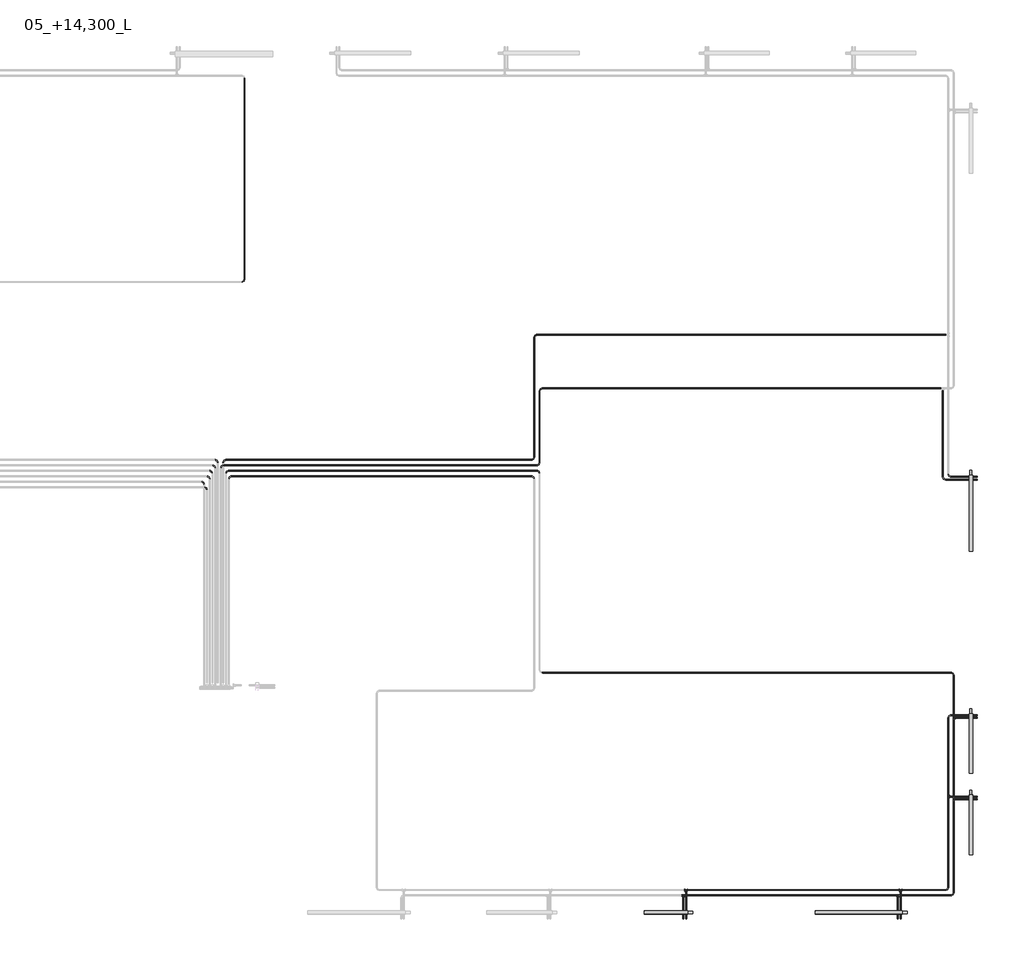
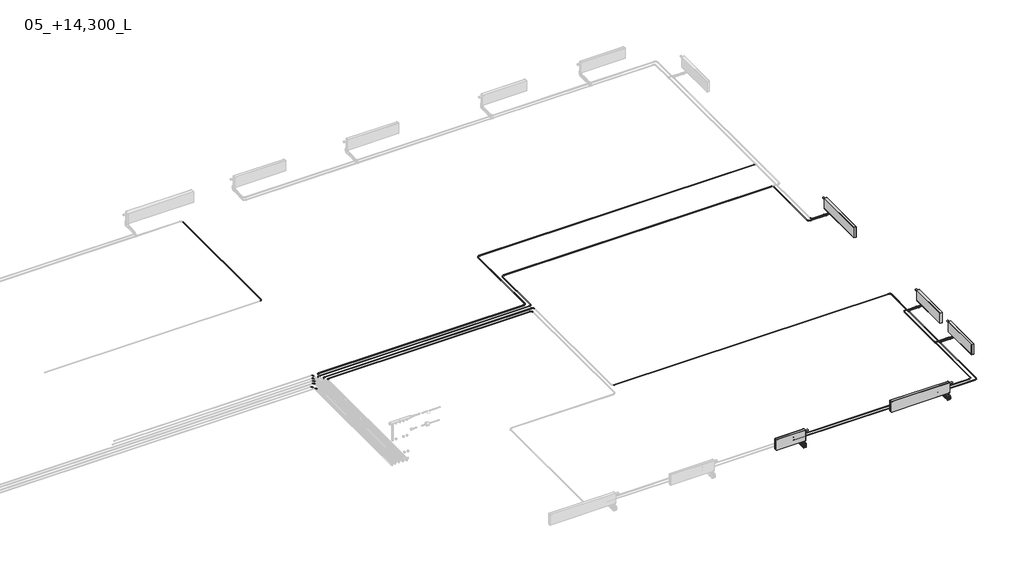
# One storey, part 5 of 15: 40 pipe fittings, 30 pipe segments, 5 proxies, 5 valves.
"""IFC4 building model written with IfcOpenShell, lengths in millimetres."""

from ifc_helpers import new_model, si_unit, point, frame, frame_2d, origin, place, context, project, spatial, circle_curve, trimmed, segment, composite_curve, outline, extrude, transform, mapped, element, save
from components import mechanical_equipment_c0c35615, mechanical_equipment_c68842d5, mechanical_equipment_6fadb864, mechanical_equipment_b2526e06, pipe_fitting_ed936812, pipe_fitting_44bd76dc, pipe_fitting_8f811e63, pipe_fitting_d927fdfb, valve_5b696a81, valve_31f837bc, valve_8453c3c0, valve_c0d130b6

model = new_model("IFC4")

# Units and contexts
model_context = context("Model", 3, world=origin())
ifc_project = project(units=[si_unit("LENGTHUNIT", "METRE", prefix="MILLI")], contexts=[model_context])

# Site, building, storey
site = spatial("IfcSite", under=ifc_project)
building = spatial("IfcBuilding", under=site)
storey = spatial("IfcBuildingStorey", under=building, Name="05_+14,300_L", Elevation=14300.0)

# Proxies
placement = place(None, origin())
mechanical_equipment_shape = mechanical_equipment_c0c35615(model_context)
element("IfcBuildingElementProxy", 1, Name="EVRA CV Д : 21-300-1600", ObjectType="EVRA CV Д : 21-300-1600", at=placement, inside=storey, context=model_context, shape_type="MappedRepresentation", body=[
    mapped(mechanical_equipment_shape, transform((30050.0, 112561.4631102, 14300.0), x_axis=(-1.0, 0.0, 0.0), y_axis=(0.0, -1.0, 0.0), z_axis=(0.0, 0.0, 1.0))),
])
mechanical_equipment_2_shape = mechanical_equipment_c68842d5(model_context)
element("IfcBuildingElementProxy", 2, Name="EVRA CV Д : 21-300-1400", ObjectType="EVRA CV Д : 21-300-1400", at=placement, inside=storey, context=model_context, shape_type="MappedRepresentation", body=[
    mapped(mechanical_equipment_2_shape, transform((31938.5368901, 120140.0000002, 14300.0), x_axis=(0.0, -1.0, 0.0), y_axis=(1.0, 0.0, 0.0), z_axis=(0.0, 0.0, 1.0))),
])
mechanical_equipment_3_shape = mechanical_equipment_6fadb864(model_context)
element("IfcBuildingElementProxy", 3, Name="EVRA CV Д : 21-300-1100", ObjectType="EVRA CV Д : 21-300-1100", at=placement, inside=storey, context=model_context, shape_type="MappedRepresentation", body=[
    mapped(mechanical_equipment_3_shape, transform((31938.5368898, 114400.0, 14300.0), x_axis=(0.0, -1.0, 0.0), y_axis=(1.0, 0.0, 0.0), z_axis=(0.0, 0.0, 1.0))),
])
element("IfcBuildingElementProxy", 4, Name="EVRA CV Д : 21-300-1100", ObjectType="EVRA CV Д : 21-300-1100", at=placement, inside=storey, context=model_context, shape_type="MappedRepresentation", body=[
    mapped(mechanical_equipment_3_shape, transform((31938.5368898, 115900.0, 14300.0), x_axis=(0.0, -1.0, 0.0), y_axis=(1.0, 0.0, 0.0), z_axis=(0.0, 0.0, 1.0))),
])
mechanical_equipment_4_shape = mechanical_equipment_b2526e06(model_context)
element("IfcBuildingElementProxy", 5, Name="EVRA CV Д : 21-300-800", ObjectType="EVRA CV Д : 21-300-800", at=placement, inside=storey, context=model_context, shape_type="MappedRepresentation", body=[
    mapped(mechanical_equipment_4_shape, transform((26500.0, 112561.4631102, 14300.0), x_axis=(-1.0, 0.0, 0.0), y_axis=(0.0, -1.0, 0.0), z_axis=(0.0, 0.0, 1.0))),
])

# Pipe fittings
pipe_fitting_shape = pipe_fitting_ed936812(model_context)
element("IfcPipeFitting", 6, ObjectType="ADSK_Пресс-фитинг ПЭ_Поворот с фиксатором : Поворот трубы", at=placement, inside=storey, context=model_context, shape_type="MappedRepresentation", body=[
    mapped(pipe_fitting_shape, transform((23870.0, 123228.4031807, 14250.0), x_axis=(-1.0, 0.0, 0.0), y_axis=(0.0, -1.0, 0.0), z_axis=(0.0, 0.0, 1.0))),
])
pipe_fitting_2_shape = pipe_fitting_44bd76dc(model_context)
element("IfcPipeFitting", 7, ObjectType="ADSK_Пресс-фитинг ПЭ_Тройник : Пластик черный", at=placement, inside=storey, context=model_context, shape_type="MappedRepresentation", body=[
    mapped(pipe_fitting_2_shape, transform((31600.0000003, 116170.0, 14250.0), x_axis=(0.0, 1.0, 0.0), y_axis=(-1.0, 0.0, 0.0), z_axis=(0.0, 0.0, 1.0))),
])
element("IfcPipeFitting", 8, ObjectType="ADSK_Пресс-фитинг ПЭ_Тройник : Пластик черный", at=placement, inside=storey, context=model_context, shape_type="MappedRepresentation", body=[
    mapped(pipe_fitting_2_shape, transform((31600.0000003, 114670.0, 14250.0), x_axis=(0.0, 1.0, 0.0), y_axis=(-1.0, 0.0, 0.0), z_axis=(0.0, 0.0, 1.0))),
])
element("IfcPipeFitting", 9, ObjectType="ADSK_Пресс-фитинг ПЭ_Тройник : Пластик черный", at=placement, inside=storey, context=model_context, shape_type="MappedRepresentation", body=[
    mapped(pipe_fitting_2_shape, transform((31500.0000003, 114720.0, 14250.0), x_axis=(0.0, 1.0, 0.0), y_axis=(-1.0, 0.0, 0.0), z_axis=(0.0, 0.0, 1.0))),
])
element("IfcPipeFitting", 10, ObjectType="ADSK_Пресс-фитинг ПЭ_Тройник : Пластик черный", at=placement, inside=storey, context=model_context, shape_type="MappedRepresentation", body=[
    mapped(pipe_fitting_2_shape, transform((30620.0, 113000.0, 14250.0), x_axis=(1.0, 0.0, 0.0), y_axis=(0.0, 1.0, 0.0), z_axis=(0.0, 0.0, 1.0))),
])
element("IfcPipeFitting", 11, ObjectType="ADSK_Пресс-фитинг ПЭ_Тройник : Пластик черный", at=placement, inside=storey, context=model_context, shape_type="MappedRepresentation", body=[
    mapped(pipe_fitting_2_shape, transform((30570.0, 112900.0, 14250.0), x_axis=(1.0, 0.0, 0.0), y_axis=(0.0, 1.0, 0.0), z_axis=(0.0, 0.0, 1.0))),
])
element("IfcPipeFitting", 12, ObjectType="ADSK_Пресс-фитинг ПЭ_Тройник : Пластик черный", at=placement, inside=storey, context=model_context, shape_type="MappedRepresentation", body=[
    mapped(pipe_fitting_2_shape, transform((26670.0, 113000.0, 14250.0), x_axis=(1.0, 0.0, 0.0), y_axis=(0.0, 1.0, 0.0), z_axis=(0.0, 0.0, 1.0))),
])
element("IfcPipeFitting", 13, ObjectType="ADSK_Пресс-фитинг ПЭ_Тройник : Пластик черный", at=placement, inside=storey, context=model_context, shape_type="MappedRepresentation", body=[
    mapped(pipe_fitting_2_shape, transform((26620.0, 112900.0, 14250.0), x_axis=(1.0, 0.0, 0.0), y_axis=(0.0, 1.0, 0.0), z_axis=(0.0, 0.0, 1.0))),
])
pipe_fitting_3_shape = pipe_fitting_8f811e63(model_context)
element("IfcPipeFitting", 14, ObjectType="ADSK_Пресс-фитинг ПЭ_Поворот с фиксатором : Поворот трубы", at=placement, inside=storey, context=model_context, shape_type="MappedRepresentation", body=[
    mapped(pipe_fitting_3_shape, transform((18535.0, 124200.0, 14250.0), x_axis=(1.0, 0.0, 0.0), y_axis=(0.0, 1.0, 0.0), z_axis=(0.0, 0.0, 1.0))),
])
element("IfcPipeFitting", 15, ObjectType="ADSK_Пресс-фитинг ПЭ_Поворот с фиксатором : Поворот трубы", at=placement, inside=storey, context=model_context, shape_type="MappedRepresentation", body=[
    mapped(pipe_fitting_3_shape, transform((31600.0000003, 117005.0000002, 14250.0), x_axis=(0.0, 1.0, 0.0), y_axis=(-1.0, 0.0, 0.0), z_axis=(0.0, 0.0, 1.0))),
])
element("IfcPipeFitting", 16, ObjectType="ADSK_Пресс-фитинг ПЭ_Поворот с фиксатором : Поворот трубы", at=placement, inside=storey, context=model_context, shape_type="MappedRepresentation", body=[
    mapped(pipe_fitting_3_shape, transform((31500.0000003, 113000.0, 14250.0), x_axis=(1.0, 0.0, 0.0), y_axis=(0.0, 1.0, 0.0), z_axis=(0.0, 0.0, 1.0))),
])
element("IfcPipeFitting", 17, ObjectType="ADSK_Пресс-фитинг ПЭ_Поворот с фиксатором : Поворот трубы", at=placement, inside=storey, context=model_context, shape_type="MappedRepresentation", body=[
    mapped(pipe_fitting_3_shape, transform((31600.0000003, 112900.0, 14250.0), x_axis=(1.0, 0.0, 0.0), y_axis=(0.0, 1.0, 0.0), z_axis=(0.0, 0.0, 1.0))),
])
element("IfcPipeFitting", 18, ObjectType="ADSK_Пресс-фитинг ПЭ_Поворот с фиксатором : Поворот трубы", at=placement, inside=storey, context=model_context, shape_type="MappedRepresentation", body=[
    mapped(pipe_fitting_3_shape, transform((23870.0, 120921.8369308, 14250.0), x_axis=(1.0, 0.0, 0.0), y_axis=(0.0, 1.0, 0.0), z_axis=(0.0, 0.0, 1.0))),
])
element("IfcPipeFitting", 19, ObjectType="ADSK_Пресс-фитинг ПЭ_Поворот с фиксатором : Поворот трубы", at=placement, inside=storey, context=model_context, shape_type="MappedRepresentation", body=[
    mapped(pipe_fitting_3_shape, transform((23970.0, 120821.8369308, 14250.0), x_axis=(1.0, 0.0, 0.0), y_axis=(0.0, 1.0, 0.0), z_axis=(0.0, 0.0, 1.0))),
])
element("IfcPipeFitting", 20, ObjectType="ADSK_Пресс-фитинг ПЭ_Поворот с фиксатором : Поворот трубы", at=placement, inside=storey, context=model_context, shape_type="MappedRepresentation", body=[
    mapped(pipe_fitting_3_shape, transform((23970.0, 122240.0, 14250.0), x_axis=(-1.0, 0.0, 0.0), y_axis=(0.0, -1.0, 0.0), z_axis=(0.0, 0.0, 1.0))),
])
element("IfcPipeFitting", 21, ObjectType="ADSK_Пресс-фитинг ПЭ_Поворот с фиксатором : Поворот трубы", at=placement, inside=storey, context=model_context, shape_type="MappedRepresentation", body=[
    mapped(pipe_fitting_3_shape, transform((23970.0, 120721.8369308, 14250.0), x_axis=(0.0, 1.0, 0.0), y_axis=(-1.0, 0.0, 0.0), z_axis=(0.0, 0.0, 1.0))),
])
element("IfcPipeFitting", 22, ObjectType="ADSK_Пресс-фитинг ПЭ_Поворот с фиксатором : Поворот трубы", at=placement, inside=storey, context=model_context, shape_type="MappedRepresentation", body=[
    mapped(pipe_fitting_3_shape, transform((23870.0, 120621.8369308, 14250.0), x_axis=(0.0, 1.0, 0.0), y_axis=(-1.0, 0.0, 0.0), z_axis=(0.0, 0.0, 1.0))),
])
element("IfcPipeFitting", 23, ObjectType="ADSK_Пресс-фитинг ПЭ_Поворот с фиксатором : Поворот трубы", at=placement, inside=storey, context=model_context, shape_type="MappedRepresentation", body=[
    mapped(pipe_fitting_3_shape, transform((31400.0000006, 120560.0000002, 14250.0), x_axis=(0.0, -1.0, 0.0), y_axis=(1.0, 0.0, 0.0), z_axis=(0.0, 0.0, 1.0))),
])
element("IfcPipeFitting", 24, ObjectType="ADSK_Пресс-фитинг ПЭ_Поворот с фиксатором : Поворот трубы", at=placement, inside=storey, context=model_context, shape_type="MappedRepresentation", body=[
    mapped(pipe_fitting_3_shape, transform((31500.0000006, 120610.0000002, 14250.0), x_axis=(0.0, -1.0, 0.0), y_axis=(1.0, 0.0, 0.0), z_axis=(0.0, 0.0, 1.0))),
])
element("IfcPipeFitting", 25, ObjectType="ADSK_Пресс-фитинг ПЭ_Поворот с фиксатором : Поворот трубы", at=placement, inside=storey, context=model_context, shape_type="MappedRepresentation", body=[
    mapped(pipe_fitting_3_shape, transform((31500.0000003, 116220.0, 14250.0), x_axis=(-1.0, 0.0, 0.0), y_axis=(0.0, -1.0, 0.0), z_axis=(0.0, 0.0, 1.0))),
])
element("IfcPipeFitting", 26, ObjectType="ADSK_Пресс-фитинг ПЭ_Поворот с фиксатором : Поворот трубы", at=placement, inside=storey, context=model_context, shape_type="MappedRepresentation", body=[
    mapped(pipe_fitting_3_shape, transform((17795.0, 120521.8369308, 14250.0), x_axis=(0.0, 1.0, 0.0), y_axis=(-1.0, 0.0, 0.0), z_axis=(0.0, 0.0, 1.0))),
])
element("IfcPipeFitting", 27, ObjectType="ADSK_Пресс-фитинг ПЭ_Поворот с фиксатором : Поворот трубы", at=placement, inside=storey, context=model_context, shape_type="MappedRepresentation", body=[
    mapped(pipe_fitting_3_shape, transform((18095.0, 120821.8369308, 14250.0), x_axis=(-1.0, 0.0, 0.0), y_axis=(0.0, -1.0, 0.0), z_axis=(0.0, 0.0, 1.0))),
])
element("IfcPipeFitting", 28, ObjectType="ADSK_Пресс-фитинг ПЭ_Поворот с фиксатором : Поворот трубы", at=placement, inside=storey, context=model_context, shape_type="MappedRepresentation", body=[
    mapped(pipe_fitting_3_shape, transform((18195.0, 120721.8369308, 14250.0), x_axis=(-1.0, 0.0, 0.0), y_axis=(0.0, -1.0, 0.0), z_axis=(0.0, 0.0, 1.0))),
])
element("IfcPipeFitting", 29, ObjectType="ADSK_Пресс-фитинг ПЭ_Поворот с фиксатором : Поворот трубы", at=placement, inside=storey, context=model_context, shape_type="MappedRepresentation", body=[
    mapped(pipe_fitting_3_shape, transform((18245.0, 120621.8369308, 14250.0), x_axis=(-1.0, 0.0, 0.0), y_axis=(0.0, -1.0, 0.0), z_axis=(0.0, 0.0, 1.0))),
])
element("IfcPipeFitting", 30, ObjectType="ADSK_Пресс-фитинг ПЭ_Поворот с фиксатором : Поворот трубы", at=placement, inside=storey, context=model_context, shape_type="MappedRepresentation", body=[
    mapped(pipe_fitting_3_shape, transform((17845.0, 120421.8369308, 14250.0), x_axis=(0.0, 1.0, 0.0), y_axis=(-1.0, 0.0, 0.0), z_axis=(0.0, 0.0, 1.0))),
])
element("IfcPipeFitting", 31, ObjectType="ADSK_Пресс-фитинг ПЭ_Поворот с фиксатором : Поворот трубы", at=placement, inside=storey, context=model_context, shape_type="MappedRepresentation", body=[
    mapped(pipe_fitting_3_shape, transform((17895.0, 120621.8369308, 14250.0), x_axis=(0.0, 1.0, 0.0), y_axis=(-1.0, 0.0, 0.0), z_axis=(0.0, 0.0, 1.0))),
])
element("IfcPipeFitting", 32, ObjectType="ADSK_Пресс-фитинг ПЭ_Поворот с фиксатором : Поворот трубы", at=placement, inside=storey, context=model_context, shape_type="MappedRepresentation", body=[
    mapped(pipe_fitting_3_shape, transform((17945.0, 120721.8369308, 14250.0), x_axis=(0.0, 1.0, 0.0), y_axis=(-1.0, 0.0, 0.0), z_axis=(0.0, 0.0, 1.0))),
])
element("IfcPipeFitting", 33, ObjectType="ADSK_Пресс-фитинг ПЭ_Поворот с фиксатором : Поворот трубы", at=placement, inside=storey, context=model_context, shape_type="MappedRepresentation", body=[
    mapped(pipe_fitting_3_shape, transform((17995.0, 120821.8369308, 14250.0), x_axis=(0.0, 1.0, 0.0), y_axis=(-1.0, 0.0, 0.0), z_axis=(0.0, 0.0, 1.0))),
])
element("IfcPipeFitting", 34, ObjectType="ADSK_Пресс-фитинг ПЭ_Поворот с фиксатором : Поворот трубы", at=placement, inside=storey, context=model_context, shape_type="MappedRepresentation", body=[
    mapped(pipe_fitting_3_shape, transform((18045.0, 120921.8369308, 14250.0), x_axis=(0.0, 1.0, 0.0), y_axis=(-1.0, 0.0, 0.0), z_axis=(0.0, 0.0, 1.0))),
])
element("IfcPipeFitting", 35, ObjectType="ADSK_Пресс-фитинг ПЭ_Поворот с фиксатором : Поворот трубы", at=placement, inside=storey, context=model_context, shape_type="MappedRepresentation", body=[
    mapped(pipe_fitting_3_shape, transform((18145.0, 120921.8369308, 14250.0), x_axis=(-1.0, 0.0, 0.0), y_axis=(0.0, -1.0, 0.0), z_axis=(0.0, 0.0, 1.0))),
])
pipe_fitting_4_shape = pipe_fitting_d927fdfb(model_context)
element("IfcPipeFitting", 36, ObjectType="Трубка Г-образная VTm.481.PC из стены : VTm.481.PC", at=placement, inside=storey, context=model_context, shape_type="MappedRepresentation", body=[
    mapped(pipe_fitting_4_shape, transform((31988.0, 114720.0, 14250.0), x_axis=(0.0, -1.0, 0.0), y_axis=(1.0, 0.0, 0.0), z_axis=(0.0, 0.0, 1.0))),
])
element("IfcPipeFitting", 37, ObjectType="Трубка Г-образная VTm.481.PC из стены : VTm.481.PC", at=placement, inside=storey, context=model_context, shape_type="MappedRepresentation", body=[
    mapped(pipe_fitting_4_shape, transform((30620.0, 112512.0, 14250.0), x_axis=(-1.0, 0.0, 0.0), y_axis=(0.0, -1.0, 0.0), z_axis=(0.0, 0.0, 1.0))),
])
element("IfcPipeFitting", 38, ObjectType="Трубка Г-образная VTm.481.PC из стены : VTm.481.PC", at=placement, inside=storey, context=model_context, shape_type="MappedRepresentation", body=[
    mapped(pipe_fitting_4_shape, transform((26670.0, 112512.0, 14250.0), x_axis=(-1.0, 0.0, 0.0), y_axis=(0.0, -1.0, 0.0), z_axis=(0.0, 0.0, 1.0))),
])
element("IfcPipeFitting", 39, ObjectType="Трубка Г-образная VTm.481.PC из стены : VTm.481.PC", at=placement, inside=storey, context=model_context, shape_type="MappedRepresentation", body=[
    mapped(pipe_fitting_4_shape, transform((31988.0000003, 120610.0000002, 14250.0), x_axis=(0.0, -1.0, 0.0), y_axis=(1.0, 0.0, 0.0), z_axis=(0.0, 0.0, 1.0))),
])
element("IfcPipeFitting", 40, ObjectType="Трубка Г-образная VTm.481.PC из стены : VTm.481.PC", at=placement, inside=storey, context=model_context, shape_type="MappedRepresentation", body=[
    mapped(pipe_fitting_4_shape, transform((31988.0, 116220.0, 14250.0), x_axis=(0.0, -1.0, 0.0), y_axis=(1.0, 0.0, 0.0), z_axis=(0.0, 0.0, 1.0))),
])
element("IfcPipeFitting", 41, ObjectType="Трубка Г-образная VTm.481.PC из стены : VTm.481.PC", at=placement, inside=storey, context=model_context, shape_type="MappedRepresentation", body=[
    mapped(pipe_fitting_4_shape, transform((31988.0, 114670.0, 14250.0), x_axis=(0.0, -1.0, 0.0), y_axis=(1.0, 0.0, 0.0), z_axis=(0.0, 0.0, 1.0))),
])
element("IfcPipeFitting", 42, ObjectType="Трубка Г-образная VTm.481.PC из стены : VTm.481.PC", at=placement, inside=storey, context=model_context, shape_type="MappedRepresentation", body=[
    mapped(pipe_fitting_4_shape, transform((30570.0, 112512.0, 14250.0), x_axis=(-1.0, 0.0, 0.0), y_axis=(0.0, -1.0, 0.0), z_axis=(0.0, 0.0, 1.0))),
])
element("IfcPipeFitting", 43, ObjectType="Трубка Г-образная VTm.481.PC из стены : VTm.481.PC", at=placement, inside=storey, context=model_context, shape_type="MappedRepresentation", body=[
    mapped(pipe_fitting_4_shape, transform((26620.0, 112512.0, 14250.0), x_axis=(-1.0, 0.0, 0.0), y_axis=(0.0, -1.0, 0.0), z_axis=(0.0, 0.0, 1.0))),
])
element("IfcPipeFitting", 44, ObjectType="Трубка Г-образная VTm.481.PC из стены : VTm.481.PC", at=placement, inside=storey, context=model_context, shape_type="MappedRepresentation", body=[
    mapped(pipe_fitting_4_shape, transform((31988.0000003, 120560.0000002, 14250.0), x_axis=(0.0, -1.0, 0.0), y_axis=(1.0, 0.0, 0.0), z_axis=(0.0, 0.0, 1.0))),
])
element("IfcPipeFitting", 45, ObjectType="Трубка Г-образная VTm.481.PC из стены : VTm.481.PC", at=placement, inside=storey, context=model_context, shape_type="MappedRepresentation", body=[
    mapped(pipe_fitting_4_shape, transform((31988.0, 116170.0, 14250.0), x_axis=(0.0, -1.0, 0.0), y_axis=(1.0, 0.0, 0.0), z_axis=(0.0, 0.0, 1.0))),
])

# Pipe segments
element("IfcPipeSegment", 46, ObjectType="ADSK_Полиэтилен сшитый", at=placement, inside=storey, context=model_context, shape_type="SweptSolid", body=[
    extrude(outline(composite_curve([segment(trimmed(circle_curve(frame_2d((14250.0, 31500.0000003)), 8.0), [point((14250.0, 31508.0000003))], [point((14258.0, 31500.0000003))], False, "CARTESIAN"), True, "CONTINUOUS"), segment(trimmed(circle_curve(frame_2d((14250.0, 31500.0000003)), 8.0), [point((14258.0, 31500.0000003))], [point((14250.0, 31492.0000003))], False, "CARTESIAN"), True, "CONTINUOUS"), segment(trimmed(circle_curve(frame_2d((14250.0, 31500.0000003)), 8.0), [point((14250.0, 31492.0000003))], [point((14242.0, 31500.0000003))], False, "CARTESIAN"), True, "CONTINUOUS"), segment(trimmed(circle_curve(frame_2d((14250.0, 31500.0000003)), 8.0), [point((14242.0, 31500.0000003))], [point((14250.0, 31508.0000003))], False, "CARTESIAN"), True, "CONTINUOUS")], self_intersect=False)), frame((0.0, 114740.0, 0.0), z_axis=(0.0, 1.0, 0.0), x_axis=(0.0, 0.0, 1.0)), (0.0, 0.0, 1.0), 1432.0),
])
element("IfcPipeSegment", 47, ObjectType="ADSK_Полиэтилен сшитый", at=placement, inside=storey, context=model_context, shape_type="SweptSolid", body=[
    extrude(outline(composite_curve([segment(trimmed(circle_curve(frame_2d((14250.0, 18535.0)), 8.0), [point((14250.0, 18543.0))], [point((14258.0, 18535.0))], False, "CARTESIAN"), True, "CONTINUOUS"), segment(trimmed(circle_curve(frame_2d((14250.0, 18535.0)), 8.0), [point((14258.0, 18535.0))], [point((14250.0, 18527.0))], False, "CARTESIAN"), True, "CONTINUOUS"), segment(trimmed(circle_curve(frame_2d((14250.0, 18535.0)), 8.0), [point((14250.0, 18527.0))], [point((14242.0, 18535.0))], False, "CARTESIAN"), True, "CONTINUOUS"), segment(trimmed(circle_curve(frame_2d((14250.0, 18535.0)), 8.0), [point((14242.0, 18535.0))], [point((14250.0, 18543.0))], False, "CARTESIAN"), True, "CONTINUOUS")], self_intersect=False)), frame((0.0, 124248.0, 0.0), z_axis=(0.0, 1.0, 0.0), x_axis=(0.0, 0.0, 1.0)), (0.0, 0.0, 1.0), 3704.0),
])
element("IfcPipeSegment", 48, ObjectType="ADSK_Полиэтилен сшитый", at=placement, inside=storey, context=model_context, shape_type="SweptSolid", body=[
    extrude(outline(composite_curve([segment(trimmed(circle_curve(frame_2d((14250.0, 23870.0)), 8.0), [point((14250.0, 23878.0))], [point((14258.0, 23870.0))], False, "CARTESIAN"), True, "CONTINUOUS"), segment(trimmed(circle_curve(frame_2d((14250.0, 23870.0)), 8.0), [point((14258.0, 23870.0))], [point((14250.0, 23862.0))], False, "CARTESIAN"), True, "CONTINUOUS"), segment(trimmed(circle_curve(frame_2d((14250.0, 23870.0)), 8.0), [point((14250.0, 23862.0))], [point((14242.0, 23870.0))], False, "CARTESIAN"), True, "CONTINUOUS"), segment(trimmed(circle_curve(frame_2d((14250.0, 23870.0)), 8.0), [point((14242.0, 23870.0))], [point((14250.0, 23878.0))], False, "CARTESIAN"), True, "CONTINUOUS")], self_intersect=False)), frame((0.0, 120969.8369308, 0.0), z_axis=(0.0, 1.0, 0.0), x_axis=(0.0, 0.0, 1.0)), (0.0, 0.0, 1.0), 2210.5662499),
])
element("IfcPipeSegment", 49, ObjectType="ADSK_Полиэтилен сшитый", at=placement, inside=storey, context=model_context, shape_type="SweptSolid", body=[
    extrude(outline(composite_curve([segment(trimmed(circle_curve(frame_2d((123228.4031807, 14250.0)), 8.0), [point((123236.4031807, 14250.0))], [point((123228.4031807, 14242.0))], False, "CARTESIAN"), True, "CONTINUOUS"), segment(trimmed(circle_curve(frame_2d((123228.4031807, 14250.0)), 8.0), [point((123228.4031807, 14242.0))], [point((123220.4031807, 14250.0))], False, "CARTESIAN"), True, "CONTINUOUS"), segment(trimmed(circle_curve(frame_2d((123228.4031807, 14250.0)), 8.0), [point((123220.4031807, 14250.0))], [point((123228.4031807, 14258.0))], False, "CARTESIAN"), True, "CONTINUOUS"), segment(trimmed(circle_curve(frame_2d((123228.4031807, 14250.0)), 8.0), [point((123228.4031807, 14258.0))], [point((123236.4031807, 14250.0))], False, "CARTESIAN"), True, "CONTINUOUS")], self_intersect=False)), frame((23918.0, 0.0, 0.0), z_axis=(1.0, 0.0, 0.0), x_axis=(0.0, 1.0, 0.0)), (0.0, 0.0, 1.0), 7556.0000006),
])
element("IfcPipeSegment", 50, ObjectType="ADSK_Полиэтилен сшитый", at=placement, inside=storey, context=model_context, shape_type="SweptSolid", body=[
    extrude(outline(composite_curve([segment(trimmed(circle_curve(frame_2d((14250.0, 23970.0)), 8.0), [point((14250.0, 23978.0))], [point((14258.0, 23970.0))], False, "CARTESIAN"), True, "CONTINUOUS"), segment(trimmed(circle_curve(frame_2d((14250.0, 23970.0)), 8.0), [point((14258.0, 23970.0))], [point((14250.0, 23962.0))], False, "CARTESIAN"), True, "CONTINUOUS"), segment(trimmed(circle_curve(frame_2d((14250.0, 23970.0)), 8.0), [point((14250.0, 23962.0))], [point((14242.0, 23970.0))], False, "CARTESIAN"), True, "CONTINUOUS"), segment(trimmed(circle_curve(frame_2d((14250.0, 23970.0)), 8.0), [point((14242.0, 23970.0))], [point((14250.0, 23978.0))], False, "CARTESIAN"), True, "CONTINUOUS")], self_intersect=False)), frame((0.0, 120869.8369308, 0.0), z_axis=(0.0, 1.0, 0.0), x_axis=(0.0, 0.0, 1.0)), (0.0, 0.0, 1.0), 1322.1630692),
])
element("IfcPipeSegment", 51, ObjectType="ADSK_Полиэтилен сшитый", at=placement, inside=storey, context=model_context, shape_type="SweptSolid", body=[
    extrude(outline(composite_curve([segment(trimmed(circle_curve(frame_2d((120560.0000002, 14250.0)), 8.0), [point((120552.0000002, 14250.0))], [point((120560.0000002, 14258.0))], False, "CARTESIAN"), True, "CONTINUOUS"), segment(trimmed(circle_curve(frame_2d((120560.0000002, 14250.0)), 8.0), [point((120560.0000002, 14258.0))], [point((120568.0000002, 14250.0))], False, "CARTESIAN"), True, "CONTINUOUS"), segment(trimmed(circle_curve(frame_2d((120560.0000002, 14250.0)), 8.0), [point((120568.0000002, 14250.0))], [point((120560.0000002, 14242.0))], False, "CARTESIAN"), True, "CONTINUOUS"), segment(trimmed(circle_curve(frame_2d((120560.0000002, 14250.0)), 8.0), [point((120560.0000002, 14242.0))], [point((120552.0000002, 14250.0))], False, "CARTESIAN"), True, "CONTINUOUS")], self_intersect=False)), frame((31448.0000006, 0.0, 0.0), z_axis=(1.0, 0.0, 0.0), x_axis=(0.0, 1.0, 0.0)), (0.0, 0.0, 1.0), 424.9999997),
])
element("IfcPipeSegment", 52, ObjectType="ADSK_Полиэтилен сшитый", at=placement, inside=storey, context=model_context, shape_type="SweptSolid", body=[
    extrude(outline(composite_curve([segment(trimmed(circle_curve(frame_2d((14250.0, 31400.0000006)), 8.0), [point((14250.0, 31408.0000006))], [point((14258.0, 31400.0000006))], False, "CARTESIAN"), True, "CONTINUOUS"), segment(trimmed(circle_curve(frame_2d((14250.0, 31400.0000006)), 8.0), [point((14258.0, 31400.0000006))], [point((14250.0, 31392.0000006))], False, "CARTESIAN"), True, "CONTINUOUS"), segment(trimmed(circle_curve(frame_2d((14250.0, 31400.0000006)), 8.0), [point((14250.0, 31392.0000006))], [point((14242.0, 31400.0000006))], False, "CARTESIAN"), True, "CONTINUOUS"), segment(trimmed(circle_curve(frame_2d((14250.0, 31400.0000006)), 8.0), [point((14242.0, 31400.0000006))], [point((14250.0, 31408.0000006))], False, "CARTESIAN"), True, "CONTINUOUS")], self_intersect=False)), frame((0.0, 120608.0000002, 0.0), z_axis=(0.0, 1.0, 0.0), x_axis=(0.0, 0.0, 1.0)), (0.0, 0.0, 1.0), 1607.9999998),
])
element("IfcPipeSegment", 53, ObjectType="ADSK_Полиэтилен сшитый", at=placement, inside=storey, context=model_context, shape_type="SweptSolid", body=[
    extrude(outline(composite_curve([segment(trimmed(circle_curve(frame_2d((122240.0, 14250.0)), 8.0), [point((122232.0, 14250.0))], [point((122240.0, 14258.0))], False, "CARTESIAN"), True, "CONTINUOUS"), segment(trimmed(circle_curve(frame_2d((122240.0, 14250.0)), 8.0), [point((122240.0, 14258.0))], [point((122248.0, 14250.0))], False, "CARTESIAN"), True, "CONTINUOUS"), segment(trimmed(circle_curve(frame_2d((122240.0, 14250.0)), 8.0), [point((122248.0, 14250.0))], [point((122240.0, 14242.0))], False, "CARTESIAN"), True, "CONTINUOUS"), segment(trimmed(circle_curve(frame_2d((122240.0, 14250.0)), 8.0), [point((122240.0, 14242.0))], [point((122232.0, 14250.0))], False, "CARTESIAN"), True, "CONTINUOUS")], self_intersect=False)), frame((24018.0, 0.0, 0.0), z_axis=(1.0, 0.0, 0.0), x_axis=(0.0, 1.0, 0.0)), (0.0, 0.0, 1.0), 7362.0000006),
])
element("IfcPipeSegment", 54, ObjectType="ADSK_Полиэтилен сшитый", at=placement, inside=storey, context=model_context, shape_type="SweptSolid", body=[
    extrude(outline(composite_curve([segment(trimmed(circle_curve(frame_2d((120610.0000002, 14250.0)), 8.0), [point((120602.0000002, 14250.0))], [point((120610.0000002, 14258.0))], False, "CARTESIAN"), True, "CONTINUOUS"), segment(trimmed(circle_curve(frame_2d((120610.0000002, 14250.0)), 8.0), [point((120610.0000002, 14258.0))], [point((120618.0000002, 14250.0))], False, "CARTESIAN"), True, "CONTINUOUS"), segment(trimmed(circle_curve(frame_2d((120610.0000002, 14250.0)), 8.0), [point((120618.0000002, 14250.0))], [point((120610.0000002, 14242.0))], False, "CARTESIAN"), True, "CONTINUOUS"), segment(trimmed(circle_curve(frame_2d((120610.0000002, 14250.0)), 8.0), [point((120610.0000002, 14242.0))], [point((120602.0000002, 14250.0))], False, "CARTESIAN"), True, "CONTINUOUS")], self_intersect=False)), frame((31548.0000006, 0.0, 0.0), z_axis=(1.0, 0.0, 0.0), x_axis=(0.0, 1.0, 0.0)), (0.0, 0.0, 1.0), 324.9999997),
])
element("IfcPipeSegment", 55, ObjectType="ADSK_Полиэтилен сшитый", at=placement, inside=storey, context=model_context, shape_type="SweptSolid", body=[
    extrude(outline(composite_curve([segment(trimmed(circle_curve(frame_2d((117005.0000002, 14250.0)), 8.0), [point((116997.0000002, 14250.0))], [point((117005.0000002, 14258.0))], False, "CARTESIAN"), True, "CONTINUOUS"), segment(trimmed(circle_curve(frame_2d((117005.0000002, 14250.0)), 8.0), [point((117005.0000002, 14258.0))], [point((117013.0000002, 14250.0))], False, "CARTESIAN"), True, "CONTINUOUS"), segment(trimmed(circle_curve(frame_2d((117005.0000002, 14250.0)), 8.0), [point((117013.0000002, 14250.0))], [point((117005.0000002, 14242.0))], False, "CARTESIAN"), True, "CONTINUOUS"), segment(trimmed(circle_curve(frame_2d((117005.0000002, 14250.0)), 8.0), [point((117005.0000002, 14242.0))], [point((116997.0000002, 14250.0))], False, "CARTESIAN"), True, "CONTINUOUS")], self_intersect=False)), frame((24018.0, 0.0, 0.0), z_axis=(1.0, 0.0, 0.0), x_axis=(0.0, 1.0, 0.0)), (0.0, 0.0, 1.0), 7534.0000003),
])
element("IfcPipeSegment", 56, ObjectType="ADSK_Полиэтилен сшитый", at=placement, inside=storey, context=model_context, shape_type="SweptSolid", body=[
    extrude(outline(composite_curve([segment(trimmed(circle_curve(frame_2d((116170.0, 14250.0)), 8.0), [point((116162.0, 14250.0))], [point((116170.0, 14258.0))], False, "CARTESIAN"), True, "CONTINUOUS"), segment(trimmed(circle_curve(frame_2d((116170.0, 14250.0)), 8.0), [point((116170.0, 14258.0))], [point((116178.0, 14250.0))], False, "CARTESIAN"), True, "CONTINUOUS"), segment(trimmed(circle_curve(frame_2d((116170.0, 14250.0)), 8.0), [point((116178.0, 14250.0))], [point((116170.0, 14242.0))], False, "CARTESIAN"), True, "CONTINUOUS"), segment(trimmed(circle_curve(frame_2d((116170.0, 14250.0)), 8.0), [point((116170.0, 14242.0))], [point((116162.0, 14250.0))], False, "CARTESIAN"), True, "CONTINUOUS")], self_intersect=False)), frame((31624.0000003, 0.0, 0.0), z_axis=(1.0, 0.0, 0.0), x_axis=(0.0, 1.0, 0.0)), (0.0, 0.0, 1.0), 248.9999997),
])
element("IfcPipeSegment", 57, ObjectType="ADSK_Полиэтилен сшитый", at=placement, inside=storey, context=model_context, shape_type="SweptSolid", body=[
    extrude(outline(composite_curve([segment(trimmed(circle_curve(frame_2d((14250.0, 31600.0000003)), 8.0), [point((14250.0, 31592.0000003))], [point((14242.0, 31600.0000003))], False, "CARTESIAN"), True, "CONTINUOUS"), segment(trimmed(circle_curve(frame_2d((14250.0, 31600.0000003)), 8.0), [point((14242.0, 31600.0000003))], [point((14250.0, 31608.0000003))], False, "CARTESIAN"), True, "CONTINUOUS"), segment(trimmed(circle_curve(frame_2d((14250.0, 31600.0000003)), 8.0), [point((14250.0, 31608.0000003))], [point((14258.0, 31600.0000003))], False, "CARTESIAN"), True, "CONTINUOUS"), segment(trimmed(circle_curve(frame_2d((14250.0, 31600.0000003)), 8.0), [point((14258.0, 31600.0000003))], [point((14250.0, 31592.0000003))], False, "CARTESIAN"), True, "CONTINUOUS")], self_intersect=False)), frame((0.0, 116190.0, 0.0), z_axis=(0.0, 1.0, 0.0), x_axis=(0.0, 0.0, 1.0)), (0.0, 0.0, 1.0), 767.0000002),
])
element("IfcPipeSegment", 58, ObjectType="ADSK_Полиэтилен сшитый", at=placement, inside=storey, context=model_context, shape_type="SweptSolid", body=[
    extrude(outline(composite_curve([segment(trimmed(circle_curve(frame_2d((116220.0, 14250.0)), 8.0), [point((116212.0, 14250.0))], [point((116220.0, 14258.0))], False, "CARTESIAN"), True, "CONTINUOUS"), segment(trimmed(circle_curve(frame_2d((116220.0, 14250.0)), 8.0), [point((116220.0, 14258.0))], [point((116228.0, 14250.0))], False, "CARTESIAN"), True, "CONTINUOUS"), segment(trimmed(circle_curve(frame_2d((116220.0, 14250.0)), 8.0), [point((116228.0, 14250.0))], [point((116220.0, 14242.0))], False, "CARTESIAN"), True, "CONTINUOUS"), segment(trimmed(circle_curve(frame_2d((116220.0, 14250.0)), 8.0), [point((116220.0, 14242.0))], [point((116212.0, 14250.0))], False, "CARTESIAN"), True, "CONTINUOUS")], self_intersect=False)), frame((31548.0000003, 0.0, 0.0), z_axis=(1.0, 0.0, 0.0), x_axis=(0.0, 1.0, 0.0)), (0.0, 0.0, 1.0), 324.9999997),
])
element("IfcPipeSegment", 59, ObjectType="ADSK_Полиэтилен сшитый", at=placement, inside=storey, context=model_context, shape_type="SweptSolid", body=[
    extrude(outline(composite_curve([segment(trimmed(circle_curve(frame_2d((114720.0, 14250.0)), 8.0), [point((114712.0, 14250.0))], [point((114720.0, 14258.0))], False, "CARTESIAN"), True, "CONTINUOUS"), segment(trimmed(circle_curve(frame_2d((114720.0, 14250.0)), 8.0), [point((114720.0, 14258.0))], [point((114728.0, 14250.0))], False, "CARTESIAN"), True, "CONTINUOUS"), segment(trimmed(circle_curve(frame_2d((114720.0, 14250.0)), 8.0), [point((114728.0, 14250.0))], [point((114720.0, 14242.0))], False, "CARTESIAN"), True, "CONTINUOUS"), segment(trimmed(circle_curve(frame_2d((114720.0, 14250.0)), 8.0), [point((114720.0, 14242.0))], [point((114712.0, 14250.0))], False, "CARTESIAN"), True, "CONTINUOUS")], self_intersect=False)), frame((31524.0000003, 0.0, 0.0), z_axis=(1.0, 0.0, 0.0), x_axis=(0.0, 1.0, 0.0)), (0.0, 0.0, 1.0), 348.9999997),
])
element("IfcPipeSegment", 60, ObjectType="ADSK_Полиэтилен сшитый", at=placement, inside=storey, context=model_context, shape_type="SweptSolid", body=[
    extrude(outline(composite_curve([segment(trimmed(circle_curve(frame_2d((114670.0, 14250.0)), 8.0), [point((114662.0, 14250.0))], [point((114670.0, 14258.0))], False, "CARTESIAN"), True, "CONTINUOUS"), segment(trimmed(circle_curve(frame_2d((114670.0, 14250.0)), 8.0), [point((114670.0, 14258.0))], [point((114678.0, 14250.0))], False, "CARTESIAN"), True, "CONTINUOUS"), segment(trimmed(circle_curve(frame_2d((114670.0, 14250.0)), 8.0), [point((114678.0, 14250.0))], [point((114670.0, 14242.0))], False, "CARTESIAN"), True, "CONTINUOUS"), segment(trimmed(circle_curve(frame_2d((114670.0, 14250.0)), 8.0), [point((114670.0, 14242.0))], [point((114662.0, 14250.0))], False, "CARTESIAN"), True, "CONTINUOUS")], self_intersect=False)), frame((31624.0000003, 0.0, 0.0), z_axis=(1.0, 0.0, 0.0), x_axis=(0.0, 1.0, 0.0)), (0.0, 0.0, 1.0), 248.9999997),
])
element("IfcPipeSegment", 61, ObjectType="ADSK_Полиэтилен сшитый", at=placement, inside=storey, context=model_context, shape_type="SweptSolid", body=[
    extrude(outline(composite_curve([segment(trimmed(circle_curve(frame_2d((14250.0, 31600.0000003)), 8.0), [point((14250.0, 31592.0000003))], [point((14242.0, 31600.0000003))], False, "CARTESIAN"), True, "CONTINUOUS"), segment(trimmed(circle_curve(frame_2d((14250.0, 31600.0000003)), 8.0), [point((14242.0, 31600.0000003))], [point((14250.0, 31608.0000003))], False, "CARTESIAN"), True, "CONTINUOUS"), segment(trimmed(circle_curve(frame_2d((14250.0, 31600.0000003)), 8.0), [point((14250.0, 31608.0000003))], [point((14258.0, 31600.0000003))], False, "CARTESIAN"), True, "CONTINUOUS"), segment(trimmed(circle_curve(frame_2d((14250.0, 31600.0000003)), 8.0), [point((14258.0, 31600.0000003))], [point((14250.0, 31592.0000003))], False, "CARTESIAN"), True, "CONTINUOUS")], self_intersect=False)), frame((0.0, 112948.0, 0.0), z_axis=(0.0, 1.0, 0.0), x_axis=(0.0, 0.0, 1.0)), (0.0, 0.0, 1.0), 1702.0),
])
element("IfcPipeSegment", 62, ObjectType="ADSK_Полиэтилен сшитый", at=placement, inside=storey, context=model_context, shape_type="SweptSolid", body=[
    extrude(outline(composite_curve([segment(trimmed(circle_curve(frame_2d((14250.0, 30570.0)), 8.0), [point((14250.0, 30562.0))], [point((14242.0, 30570.0))], False, "CARTESIAN"), True, "CONTINUOUS"), segment(trimmed(circle_curve(frame_2d((14250.0, 30570.0)), 8.0), [point((14242.0, 30570.0))], [point((14250.0, 30578.0))], False, "CARTESIAN"), True, "CONTINUOUS"), segment(trimmed(circle_curve(frame_2d((14250.0, 30570.0)), 8.0), [point((14250.0, 30578.0))], [point((14258.0, 30570.0))], False, "CARTESIAN"), True, "CONTINUOUS"), segment(trimmed(circle_curve(frame_2d((14250.0, 30570.0)), 8.0), [point((14258.0, 30570.0))], [point((14250.0, 30562.0))], False, "CARTESIAN"), True, "CONTINUOUS")], self_intersect=False)), frame((0.0, 112627.0, 0.0), z_axis=(0.0, 1.0, 0.0), x_axis=(0.0, 0.0, 1.0)), (0.0, 0.0, 1.0), 249.0),
])
element("IfcPipeSegment", 63, ObjectType="ADSK_Полиэтилен сшитый", at=placement, inside=storey, context=model_context, shape_type="SweptSolid", body=[
    extrude(outline(composite_curve([segment(trimmed(circle_curve(frame_2d((14250.0, 30620.0)), 8.0), [point((14250.0, 30612.0))], [point((14242.0, 30620.0))], False, "CARTESIAN"), True, "CONTINUOUS"), segment(trimmed(circle_curve(frame_2d((14250.0, 30620.0)), 8.0), [point((14242.0, 30620.0))], [point((14250.0, 30628.0))], False, "CARTESIAN"), True, "CONTINUOUS"), segment(trimmed(circle_curve(frame_2d((14250.0, 30620.0)), 8.0), [point((14250.0, 30628.0))], [point((14258.0, 30620.0))], False, "CARTESIAN"), True, "CONTINUOUS"), segment(trimmed(circle_curve(frame_2d((14250.0, 30620.0)), 8.0), [point((14258.0, 30620.0))], [point((14250.0, 30612.0))], False, "CARTESIAN"), True, "CONTINUOUS")], self_intersect=False)), frame((0.0, 112627.0, 0.0), z_axis=(0.0, 1.0, 0.0), x_axis=(0.0, 0.0, 1.0)), (0.0, 0.0, 1.0), 349.0),
])
element("IfcPipeSegment", 64, ObjectType="ADSK_Полиэтилен сшитый", at=placement, inside=storey, context=model_context, shape_type="SweptSolid", body=[
    extrude(outline(composite_curve([segment(trimmed(circle_curve(frame_2d((14250.0, 26620.0)), 8.0), [point((14250.0, 26612.0))], [point((14242.0, 26620.0))], False, "CARTESIAN"), True, "CONTINUOUS"), segment(trimmed(circle_curve(frame_2d((14250.0, 26620.0)), 8.0), [point((14242.0, 26620.0))], [point((14250.0, 26628.0))], False, "CARTESIAN"), True, "CONTINUOUS"), segment(trimmed(circle_curve(frame_2d((14250.0, 26620.0)), 8.0), [point((14250.0, 26628.0))], [point((14258.0, 26620.0))], False, "CARTESIAN"), True, "CONTINUOUS"), segment(trimmed(circle_curve(frame_2d((14250.0, 26620.0)), 8.0), [point((14258.0, 26620.0))], [point((14250.0, 26612.0))], False, "CARTESIAN"), True, "CONTINUOUS")], self_intersect=False)), frame((0.0, 112627.0, 0.0), z_axis=(0.0, 1.0, 0.0), x_axis=(0.0, 0.0, 1.0)), (0.0, 0.0, 1.0), 249.0),
])
element("IfcPipeSegment", 65, ObjectType="ADSK_Полиэтилен сшитый", at=placement, inside=storey, context=model_context, shape_type="SweptSolid", body=[
    extrude(outline(composite_curve([segment(trimmed(circle_curve(frame_2d((14250.0, 26670.0)), 8.0), [point((14250.0, 26662.0))], [point((14242.0, 26670.0))], False, "CARTESIAN"), True, "CONTINUOUS"), segment(trimmed(circle_curve(frame_2d((14250.0, 26670.0)), 8.0), [point((14242.0, 26670.0))], [point((14250.0, 26678.0))], False, "CARTESIAN"), True, "CONTINUOUS"), segment(trimmed(circle_curve(frame_2d((14250.0, 26670.0)), 8.0), [point((14250.0, 26678.0))], [point((14258.0, 26670.0))], False, "CARTESIAN"), True, "CONTINUOUS"), segment(trimmed(circle_curve(frame_2d((14250.0, 26670.0)), 8.0), [point((14258.0, 26670.0))], [point((14250.0, 26662.0))], False, "CARTESIAN"), True, "CONTINUOUS")], self_intersect=False)), frame((0.0, 112627.0, 0.0), z_axis=(0.0, 1.0, 0.0), x_axis=(0.0, 0.0, 1.0)), (0.0, 0.0, 1.0), 349.0),
])
element("IfcPipeSegment", 66, ObjectType="ADSK_Полиэтилен сшитый", at=placement, inside=storey, context=model_context, shape_type="SweptSolid", body=[
    extrude(outline(composite_curve([segment(trimmed(circle_curve(frame_2d((120921.8369308, 14250.0)), 8.0), [point((120929.8369308, 14250.0))], [point((120921.8369308, 14242.0))], False, "CARTESIAN"), True, "CONTINUOUS"), segment(trimmed(circle_curve(frame_2d((120921.8369308, 14250.0)), 8.0), [point((120921.8369308, 14242.0))], [point((120913.8369308, 14250.0))], False, "CARTESIAN"), True, "CONTINUOUS"), segment(trimmed(circle_curve(frame_2d((120921.8369308, 14250.0)), 8.0), [point((120913.8369308, 14250.0))], [point((120921.8369308, 14258.0))], False, "CARTESIAN"), True, "CONTINUOUS"), segment(trimmed(circle_curve(frame_2d((120921.8369308, 14250.0)), 8.0), [point((120921.8369308, 14258.0))], [point((120929.8369308, 14250.0))], False, "CARTESIAN"), True, "CONTINUOUS")], self_intersect=False)), frame((18193.0, 0.0, 0.0), z_axis=(1.0, 0.0, 0.0), x_axis=(0.0, 1.0, 0.0)), (0.0, 0.0, 1.0), 5629.0),
])
element("IfcPipeSegment", 67, ObjectType="ADSK_Полиэтилен сшитый", at=placement, inside=storey, context=model_context, shape_type="SweptSolid", body=[
    extrude(outline(composite_curve([segment(trimmed(circle_curve(frame_2d((120821.8369308, 14250.0)), 8.0), [point((120829.8369308, 14250.0))], [point((120821.8369308, 14242.0))], False, "CARTESIAN"), True, "CONTINUOUS"), segment(trimmed(circle_curve(frame_2d((120821.8369308, 14250.0)), 8.0), [point((120821.8369308, 14242.0))], [point((120813.8369308, 14250.0))], False, "CARTESIAN"), True, "CONTINUOUS"), segment(trimmed(circle_curve(frame_2d((120821.8369308, 14250.0)), 8.0), [point((120813.8369308, 14250.0))], [point((120821.8369308, 14258.0))], False, "CARTESIAN"), True, "CONTINUOUS"), segment(trimmed(circle_curve(frame_2d((120821.8369308, 14250.0)), 8.0), [point((120821.8369308, 14258.0))], [point((120829.8369308, 14250.0))], False, "CARTESIAN"), True, "CONTINUOUS")], self_intersect=False)), frame((18143.0, 0.0, 0.0), z_axis=(1.0, 0.0, 0.0), x_axis=(0.0, 1.0, 0.0)), (0.0, 0.0, 1.0), 5779.0),
])
element("IfcPipeSegment", 68, ObjectType="ADSK_Полиэтилен сшитый", at=placement, inside=storey, context=model_context, shape_type="SweptSolid", body=[
    extrude(outline(composite_curve([segment(trimmed(circle_curve(frame_2d((120721.8369308, 14250.0)), 8.0), [point((120713.8369308, 14250.0))], [point((120721.8369308, 14258.0))], False, "CARTESIAN"), True, "CONTINUOUS"), segment(trimmed(circle_curve(frame_2d((120721.8369308, 14250.0)), 8.0), [point((120721.8369308, 14258.0))], [point((120729.8369308, 14250.0))], False, "CARTESIAN"), True, "CONTINUOUS"), segment(trimmed(circle_curve(frame_2d((120721.8369308, 14250.0)), 8.0), [point((120729.8369308, 14250.0))], [point((120721.8369308, 14242.0))], False, "CARTESIAN"), True, "CONTINUOUS"), segment(trimmed(circle_curve(frame_2d((120721.8369308, 14250.0)), 8.0), [point((120721.8369308, 14242.0))], [point((120713.8369308, 14250.0))], False, "CARTESIAN"), True, "CONTINUOUS")], self_intersect=False)), frame((18243.0, 0.0, 0.0), z_axis=(1.0, 0.0, 0.0), x_axis=(0.0, 1.0, 0.0)), (0.0, 0.0, 1.0), 5679.0),
])
element("IfcPipeSegment", 69, ObjectType="ADSK_Полиэтилен сшитый", at=placement, inside=storey, context=model_context, shape_type="SweptSolid", body=[
    extrude(outline(composite_curve([segment(trimmed(circle_curve(frame_2d((120621.8369308, 14250.0)), 8.0), [point((120629.8369308, 14250.0))], [point((120621.8369308, 14242.0))], False, "CARTESIAN"), True, "CONTINUOUS"), segment(trimmed(circle_curve(frame_2d((120621.8369308, 14250.0)), 8.0), [point((120621.8369308, 14242.0))], [point((120613.8369308, 14250.0))], False, "CARTESIAN"), True, "CONTINUOUS"), segment(trimmed(circle_curve(frame_2d((120621.8369308, 14250.0)), 8.0), [point((120613.8369308, 14250.0))], [point((120621.8369308, 14258.0))], False, "CARTESIAN"), True, "CONTINUOUS"), segment(trimmed(circle_curve(frame_2d((120621.8369308, 14250.0)), 8.0), [point((120621.8369308, 14258.0))], [point((120629.8369308, 14250.0))], False, "CARTESIAN"), True, "CONTINUOUS")], self_intersect=False)), frame((18293.0, 0.0, 0.0), z_axis=(1.0, 0.0, 0.0), x_axis=(0.0, 1.0, 0.0)), (0.0, 0.0, 1.0), 5529.0),
])
element("IfcPipeSegment", 70, ObjectType="ADSK_Полиэтилен сшитый", at=placement, inside=storey, context=model_context, shape_type="SweptSolid", body=[
    extrude(outline(composite_curve([segment(trimmed(circle_curve(frame_2d((14250.0, 31600.0000003)), 8.0), [point((14250.0, 31592.0000003))], [point((14242.0, 31600.0000003))], False, "CARTESIAN"), True, "CONTINUOUS"), segment(trimmed(circle_curve(frame_2d((14250.0, 31600.0000003)), 8.0), [point((14242.0, 31600.0000003))], [point((14250.0, 31608.0000003))], False, "CARTESIAN"), True, "CONTINUOUS"), segment(trimmed(circle_curve(frame_2d((14250.0, 31600.0000003)), 8.0), [point((14250.0, 31608.0000003))], [point((14258.0, 31600.0000003))], False, "CARTESIAN"), True, "CONTINUOUS"), segment(trimmed(circle_curve(frame_2d((14250.0, 31600.0000003)), 8.0), [point((14258.0, 31600.0000003))], [point((14250.0, 31592.0000003))], False, "CARTESIAN"), True, "CONTINUOUS")], self_intersect=False)), frame((0.0, 114690.0, 0.0), z_axis=(0.0, 1.0, 0.0), x_axis=(0.0, 0.0, 1.0)), (0.0, 0.0, 1.0), 1460.0),
])
element("IfcPipeSegment", 71, ObjectType="ADSK_Полиэтилен сшитый", at=placement, inside=storey, context=model_context, shape_type="SweptSolid", body=[
    extrude(outline(composite_curve([segment(trimmed(circle_curve(frame_2d((14250.0, 31500.0000003)), 8.0), [point((14250.0, 31508.0000003))], [point((14258.0, 31500.0000003))], False, "CARTESIAN"), True, "CONTINUOUS"), segment(trimmed(circle_curve(frame_2d((14250.0, 31500.0000003)), 8.0), [point((14258.0, 31500.0000003))], [point((14250.0, 31492.0000003))], False, "CARTESIAN"), True, "CONTINUOUS"), segment(trimmed(circle_curve(frame_2d((14250.0, 31500.0000003)), 8.0), [point((14250.0, 31492.0000003))], [point((14242.0, 31500.0000003))], False, "CARTESIAN"), True, "CONTINUOUS"), segment(trimmed(circle_curve(frame_2d((14250.0, 31500.0000003)), 8.0), [point((14242.0, 31500.0000003))], [point((14250.0, 31508.0000003))], False, "CARTESIAN"), True, "CONTINUOUS")], self_intersect=False)), frame((0.0, 113048.0, 0.0), z_axis=(0.0, 1.0, 0.0), x_axis=(0.0, 0.0, 1.0)), (0.0, 0.0, 1.0), 1652.0),
])
element("IfcPipeSegment", 72, ObjectType="ADSK_Полиэтилен сшитый", at=placement, inside=storey, context=model_context, shape_type="SweptSolid", body=[
    extrude(outline(composite_curve([segment(trimmed(circle_curve(frame_2d((113000.0, 14250.0)), 8.0), [point((113008.0, 14250.0))], [point((113000.0, 14242.0))], False, "CARTESIAN"), True, "CONTINUOUS"), segment(trimmed(circle_curve(frame_2d((113000.0, 14250.0)), 8.0), [point((113000.0, 14242.0))], [point((112992.0, 14250.0))], False, "CARTESIAN"), True, "CONTINUOUS"), segment(trimmed(circle_curve(frame_2d((113000.0, 14250.0)), 8.0), [point((112992.0, 14250.0))], [point((113000.0, 14258.0))], False, "CARTESIAN"), True, "CONTINUOUS"), segment(trimmed(circle_curve(frame_2d((113000.0, 14250.0)), 8.0), [point((113000.0, 14258.0))], [point((113008.0, 14250.0))], False, "CARTESIAN"), True, "CONTINUOUS")], self_intersect=False)), frame((30640.0, 0.0, 0.0), z_axis=(1.0, 0.0, 0.0), x_axis=(0.0, 1.0, 0.0)), (0.0, 0.0, 1.0), 812.0000003),
])
element("IfcPipeSegment", 73, ObjectType="ADSK_Полиэтилен сшитый", at=placement, inside=storey, context=model_context, shape_type="SweptSolid", body=[
    extrude(outline(composite_curve([segment(trimmed(circle_curve(frame_2d((112900.0, 14250.0)), 8.0), [point((112908.0, 14250.0))], [point((112900.0, 14242.0))], False, "CARTESIAN"), True, "CONTINUOUS"), segment(trimmed(circle_curve(frame_2d((112900.0, 14250.0)), 8.0), [point((112900.0, 14242.0))], [point((112892.0, 14250.0))], False, "CARTESIAN"), True, "CONTINUOUS"), segment(trimmed(circle_curve(frame_2d((112900.0, 14250.0)), 8.0), [point((112892.0, 14250.0))], [point((112900.0, 14258.0))], False, "CARTESIAN"), True, "CONTINUOUS"), segment(trimmed(circle_curve(frame_2d((112900.0, 14250.0)), 8.0), [point((112900.0, 14258.0))], [point((112908.0, 14250.0))], False, "CARTESIAN"), True, "CONTINUOUS")], self_intersect=False)), frame((30590.0, 0.0, 0.0), z_axis=(1.0, 0.0, 0.0), x_axis=(0.0, 1.0, 0.0)), (0.0, 0.0, 1.0), 962.0000003),
])
element("IfcPipeSegment", 74, ObjectType="ADSK_Полиэтилен сшитый", at=placement, inside=storey, context=model_context, shape_type="SweptSolid", body=[
    extrude(outline(composite_curve([segment(trimmed(circle_curve(frame_2d((113000.0, 14250.0)), 8.0), [point((113008.0, 14250.0))], [point((113000.0, 14242.0))], False, "CARTESIAN"), True, "CONTINUOUS"), segment(trimmed(circle_curve(frame_2d((113000.0, 14250.0)), 8.0), [point((113000.0, 14242.0))], [point((112992.0, 14250.0))], False, "CARTESIAN"), True, "CONTINUOUS"), segment(trimmed(circle_curve(frame_2d((113000.0, 14250.0)), 8.0), [point((112992.0, 14250.0))], [point((113000.0, 14258.0))], False, "CARTESIAN"), True, "CONTINUOUS"), segment(trimmed(circle_curve(frame_2d((113000.0, 14250.0)), 8.0), [point((113000.0, 14258.0))], [point((113008.0, 14250.0))], False, "CARTESIAN"), True, "CONTINUOUS")], self_intersect=False)), frame((26690.0, 0.0, 0.0), z_axis=(1.0, 0.0, 0.0), x_axis=(0.0, 1.0, 0.0)), (0.0, 0.0, 1.0), 3910.0),
])
element("IfcPipeSegment", 75, ObjectType="ADSK_Полиэтилен сшитый", at=placement, inside=storey, context=model_context, shape_type="SweptSolid", body=[
    extrude(outline(composite_curve([segment(trimmed(circle_curve(frame_2d((112900.0, 14250.0)), 8.0), [point((112908.0, 14250.0))], [point((112900.0, 14242.0))], False, "CARTESIAN"), True, "CONTINUOUS"), segment(trimmed(circle_curve(frame_2d((112900.0, 14250.0)), 8.0), [point((112900.0, 14242.0))], [point((112892.0, 14250.0))], False, "CARTESIAN"), True, "CONTINUOUS"), segment(trimmed(circle_curve(frame_2d((112900.0, 14250.0)), 8.0), [point((112892.0, 14250.0))], [point((112900.0, 14258.0))], False, "CARTESIAN"), True, "CONTINUOUS"), segment(trimmed(circle_curve(frame_2d((112900.0, 14250.0)), 8.0), [point((112900.0, 14258.0))], [point((112908.0, 14250.0))], False, "CARTESIAN"), True, "CONTINUOUS")], self_intersect=False)), frame((26640.0, 0.0, 0.0), z_axis=(1.0, 0.0, 0.0), x_axis=(0.0, 1.0, 0.0)), (0.0, 0.0, 1.0), 3910.0),
])

# Valves
valve_shape = valve_5b696a81(model_context)
element("IfcValve", 76, ObjectType="EVRA_Термоголовка EVRA MТB140 : EVRA MТB140", at=placement, inside=storey, context=model_context, shape_type="MappedRepresentation", body=[
    mapped(valve_shape, transform((31913.0000003, 119940.0000002, 14650.0), x_axis=(0.0, -1.0, 0.0), y_axis=(1.0, 0.0, 0.0), z_axis=(0.0, 0.0, 1.0))),
])
valve_2_shape = valve_31f837bc(model_context)
element("IfcValve", 77, ObjectType="EVRA_Термоголовка EVRA MТB140 : EVRA MТB140", at=placement, inside=storey, context=model_context, shape_type="MappedRepresentation", body=[
    mapped(valve_2_shape, transform((31913.0, 114200.0, 14650.0), x_axis=(0.0, -1.0, 0.0), y_axis=(1.0, 0.0, 0.0), z_axis=(0.0, 0.0, 1.0))),
])
element("IfcValve", 78, ObjectType="EVRA_Термоголовка EVRA MТB140 : EVRA MТB140", at=placement, inside=storey, context=model_context, shape_type="MappedRepresentation", body=[
    mapped(valve_2_shape, transform((31913.0, 115700.0, 14650.0), x_axis=(0.0, -1.0, 0.0), y_axis=(1.0, 0.0, 0.0), z_axis=(0.0, 0.0, 1.0))),
])
valve_3_shape = valve_8453c3c0(model_context)
element("IfcValve", 79, ObjectType="EVRA_Термоголовка EVRA MТB140 : EVRA MТB140", at=placement, inside=storey, context=model_context, shape_type="MappedRepresentation", body=[
    mapped(valve_3_shape, transform((29850.0, 112587.0, 14650.0), x_axis=(-1.0, 0.0, 0.0), y_axis=(0.0, -1.0, 0.0), z_axis=(0.0, 0.0, 1.0))),
])
valve_4_shape = valve_c0d130b6(model_context)
element("IfcValve", 80, ObjectType="EVRA_Термоголовка EVRA MТB140 : EVRA MТB140", at=placement, inside=storey, context=model_context, shape_type="MappedRepresentation", body=[
    mapped(valve_4_shape, transform((26300.0, 112587.0, 14650.0), x_axis=(-1.0, 0.0, 0.0), y_axis=(0.0, -1.0, 0.0), z_axis=(0.0, 0.0, 1.0))),
])

save(model, "model.ifc")
